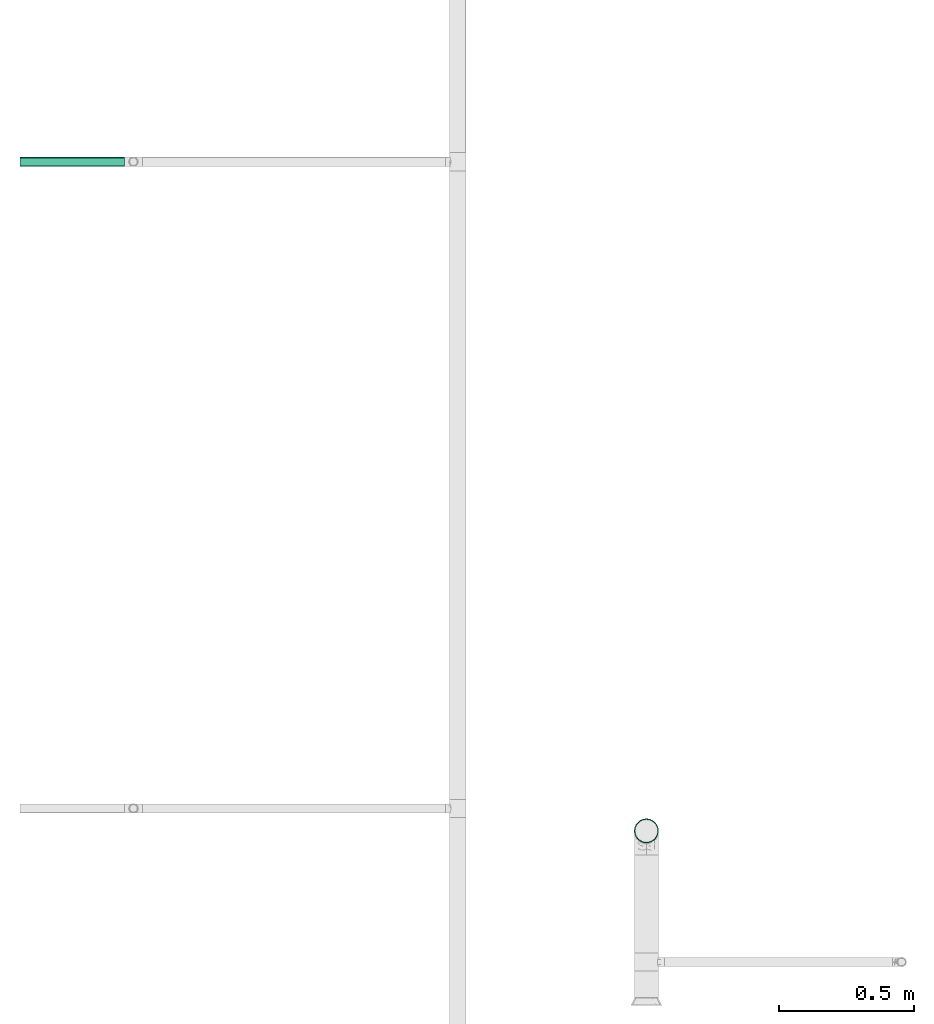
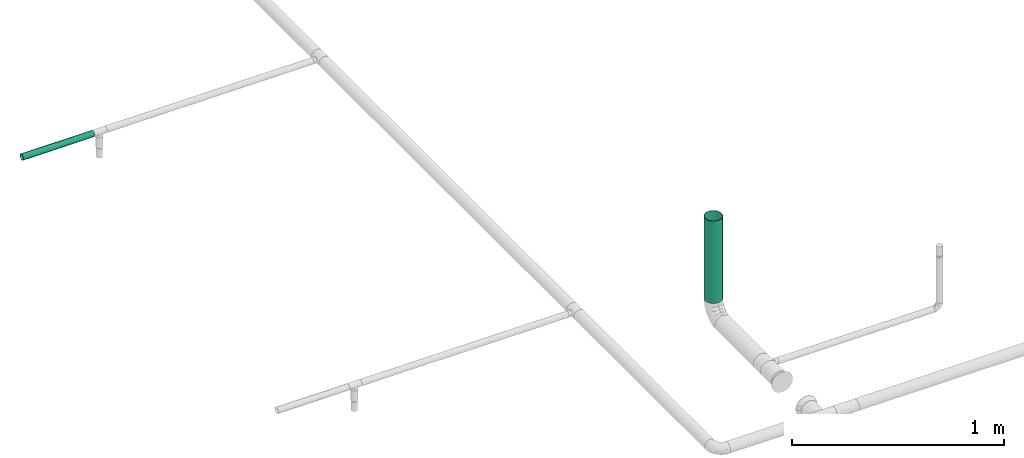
# One storey, part 42 of 45: 2 flow segments.
"""IFC2X3 building model written with IfcOpenShell, lengths in millimetres."""

from ifc_helpers import new_model, entity, si_unit, converted_unit, derived_unit, direction, frame, place, context, subcontext, project, spatial, faceted_brep, type_object, element, save


model = new_model("IFC2X3")

# Units and contexts
model_context = context("Model", 3, precision=0.01, world=frame((0.0, 4.29681676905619e-09, 0.0)), true_north=direction((4.01073788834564e-13, 1.0)))
plan_context = context("Plan", 3, precision=0.01, world=frame((0.0, 4.29681676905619e-09, 0.0)), true_north=direction((4.01073788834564e-13, 1.0)))
body_context = subcontext(model_context, "Body", "Model", "MODEL_VIEW")
ifc_project = project(units=[converted_unit("PLANEANGLEUNIT", "DEGREE", entity("IfcPositiveLengthMeasure", 0.0174532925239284), si_unit("PLANEANGLEUNIT", "RADIAN"), dimensions=[0, 0, 0, 0, 0, 0, 0]), si_unit("AREAUNIT", "SQUARE_METRE"), si_unit("LENGTHUNIT", "METRE", prefix="MILLI"), si_unit("MASSUNIT", "GRAM", prefix="KILO"), si_unit("POWERUNIT", "WATT"), si_unit("PRESSUREUNIT", "PASCAL", prefix="KILO"), si_unit("FORCEUNIT", "NEWTON", prefix="KILO"), si_unit("ELECTRICVOLTAGEUNIT", "VOLT"), si_unit("ELECTRICCURRENTUNIT", "AMPERE"), si_unit("THERMODYNAMICTEMPERATUREUNIT", "DEGREE_CELSIUS"), si_unit("TIMEUNIT", "SECOND"), si_unit("VOLUMEUNIT", "CUBIC_METRE"), derived_unit("LINEARVELOCITYUNIT", [(si_unit("LENGTHUNIT", "METRE"), 1), (si_unit("TIMEUNIT", "SECOND"), -1)]), derived_unit("VOLUMETRICFLOWRATEUNIT", [(si_unit("VOLUMEUNIT", "CUBIC_METRE"), 1), (si_unit("TIMEUNIT", "SECOND"), -1)]), derived_unit("THERMALTRANSMITTANCEUNIT", [(si_unit("POWERUNIT", "WATT"), 1), (si_unit("THERMODYNAMICTEMPERATUREUNIT", "KELVIN"), -1), (si_unit("AREAUNIT", "SQUARE_METRE"), -1)]), derived_unit("SOUNDPRESSUREUNIT", [(si_unit("PRESSUREUNIT", "PASCAL"), 1)])], contexts=[model_context, plan_context])

# Site, building, storey
site_placement = place(None, frame((0.0, -4.29681676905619e-09, 0.0), z_axis=(0.0, 0.0, 1.0), x_axis=(1.0, 0.0, 0.0)))
site = spatial("IfcSite", under=ifc_project, at=site_placement, CompositionType="ELEMENT")
building_placement = place(site_placement, frame((0.0, 4.29681676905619e-09, 0.0), z_axis=(0.0, 0.0, 1.0), x_axis=(1.0, 0.0, 0.0)))
building = spatial("IfcBuilding", under=site, at=building_placement, Name="mc-building", CompositionType="ELEMENT")
storey_placement = place(building_placement, frame((0.0, 0.0, 210200.0), z_axis=(0.0, 0.0, 1.0), x_axis=(1.0, 0.0, 0.0)))
storey = spatial("IfcBuildingStorey", under=building, at=storey_placement, Name="Nivå F - 0,7 m", CompositionType="ELEMENT", Elevation=210200.0)

# Flow segments
pipe_segment_type = type_object("IfcPipeSegmentType", Name="Stålrør normaltykke", PredefinedType="RIGIDSEGMENT")
flow_segment_1_placement = place(storey_placement, frame((324119.17326, 463640.00018, 3027.0), z_axis=(1.0, 0.0, 0.0), x_axis=(0.0, 0.0, 1.0)))
element("IfcFlowSegment", 1, at=flow_segment_1_placement, inside=storey, type_object=pipe_segment_type, Name="Stålrør normaltykke", context=body_context, shape_type="Brep", body=[
    faceted_brep([(473.0, 42.5, 0.0), (473.0, 41.8543295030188, -7.38004755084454), (0.0, 41.8543295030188, -7.38004755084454), (0.0, 42.5, 0.0), (473.0, 39.9369363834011, -14.535856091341), (0.0, 39.9369363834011, -14.535856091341), (473.0, 36.8060796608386, -21.25), (0.0, 36.8060796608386, -21.25), (473.0, 32.5568888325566, -27.3184734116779), (0.0, 32.5568888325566, -27.3184734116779), (473.0, 27.3184734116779, -32.5568888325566), (0.0, 27.3184734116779, -32.5568888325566), (473.0, 21.25, -36.8060796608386), (0.0, 21.25, -36.8060796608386), (473.0, 14.5358560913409, -39.9369363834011), (0.0, 14.5358560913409, -39.9369363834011), (473.0, 7.38004755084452, -41.8543295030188), (0.0, 7.38004755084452, -41.8543295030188), (473.0, -7.80712334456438e-15, -42.5), (0.0, -7.80712334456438e-15, -42.5), (473.0, -7.38004755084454, -41.8543295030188), (0.0, -7.38004755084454, -41.8543295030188), (473.0, -14.5358560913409, -39.9369363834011), (0.0, -14.5358560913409, -39.9369363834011), (473.0, -21.25, -36.8060796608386), (0.0, -21.25, -36.8060796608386), (473.0, -27.3184734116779, -32.5568888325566), (0.0, -27.3184734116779, -32.5568888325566), (473.0, -32.5568888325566, -27.3184734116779), (0.0, -32.5568888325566, -27.3184734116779), (473.0, -36.8060796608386, -21.25), (0.0, -36.8060796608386, -21.25), (473.0, -39.9369363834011, -14.5358560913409), (0.0, -39.9369363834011, -14.5358560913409), (473.0, -41.8543295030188, -7.38004755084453), (0.0, -41.8543295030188, -7.38004755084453), (473.0, -42.5, 5.20474889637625e-15), (0.0, -42.5, 5.20474889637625e-15), (473.0, -41.8543295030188, 7.38004755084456), (0.0, -41.8543295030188, 7.38004755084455), (473.0, -39.9369363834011, 14.5358560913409), (0.0, -39.9369363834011, 14.5358560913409), (473.0, -36.8060796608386, 21.25), (0.0, -36.8060796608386, 21.25), (473.0, -32.5568888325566, 27.3184734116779), (0.0, -32.5568888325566, 27.3184734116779), (473.0, -27.3184734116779, 32.5568888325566), (0.0, -27.3184734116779, 32.5568888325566), (473.0, -21.25, 36.8060796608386), (0.0, -21.25, 36.8060796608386), (473.0, -14.5358560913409, 39.9369363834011), (0.0, -14.5358560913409, 39.9369363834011), (473.0, -7.38004755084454, 41.8543295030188), (0.0, -7.38004755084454, 41.8543295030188), (473.0, 2.60237444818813e-15, 42.5), (0.0, 2.60237444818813e-15, 42.5), (473.0, 7.38004755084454, 41.8543295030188), (0.0, 7.38004755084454, 41.8543295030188), (473.0, 14.5358560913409, 39.9369363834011), (0.0, 14.5358560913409, 39.9369363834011), (473.0, 21.25, 36.8060796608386), (0.0, 21.25, 36.8060796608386), (473.0, 27.3184734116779, 32.5568888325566), (0.0, 27.3184734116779, 32.5568888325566), (473.0, 32.5568888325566, 27.3184734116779), (0.0, 32.5568888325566, 27.3184734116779), (473.0, 36.8060796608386, 21.25), (0.0, 36.8060796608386, 21.25), (473.0, 39.9369363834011, 14.5358560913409), (0.0, 39.9369363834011, 14.5358560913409), (473.0, 41.8543295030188, 7.38004755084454), (0.0, 41.8543295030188, 7.38004755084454), (473.0, 43.8239450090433, -7.7273439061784), (473.0, 44.5, 0.0), (0.0, 44.5, 0.0), (0.0, 43.8239450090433, -7.7273439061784), (473.0, 43.8239450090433, 7.7273439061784), (0.0, 43.8239450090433, 7.7273439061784), (473.0, 41.8163216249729, 15.2198963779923), (0.0, 41.8163216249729, 15.2198963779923), (473.0, 38.5381304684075, 22.25), (0.0, 38.5381304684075, 22.25), (473.0, 34.0889777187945, 28.604048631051), (0.0, 34.0889777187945, 28.604048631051), (473.0, 28.604048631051, 34.0889777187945), (0.0, 28.604048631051, 34.0889777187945), (473.0, 22.25, 38.5381304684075), (0.0, 22.25, 38.5381304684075), (473.0, 15.2198963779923, 41.8163216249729), (0.0, 15.2198963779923, 41.8163216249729), (473.0, 7.7273439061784, 43.8239450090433), (0.0, 7.7273439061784, 43.8239450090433), (473.0, 2.72483912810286e-15, 44.5), (0.0, 2.72483912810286e-15, 44.5), (473.0, -7.7273439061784, 43.8239450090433), (0.0, -7.7273439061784, 43.8239450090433), (473.0, -15.2198963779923, 41.8163216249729), (0.0, -15.2198963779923, 41.8163216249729), (473.0, -22.25, 38.5381304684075), (0.0, -22.25, 38.5381304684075), (473.0, -28.604048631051, 34.0889777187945), (0.0, -28.604048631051, 34.0889777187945), (473.0, -34.0889777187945, 28.604048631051), (0.0, -34.0889777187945, 28.604048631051), (473.0, -38.5381304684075, 22.25), (0.0, -38.5381304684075, 22.25), (473.0, -41.8163216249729, 15.2198963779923), (0.0, -41.8163216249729, 15.2198963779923), (473.0, -43.8239450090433, 7.72734390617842), (0.0, -43.8239450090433, 7.72734390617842), (473.0, -44.5, 5.44967825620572e-15), (0.0, -44.5, 5.44967825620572e-15), (473.0, -43.8239450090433, -7.72734390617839), (0.0, -43.8239450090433, -7.72734390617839), (473.0, -41.8163216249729, -15.2198963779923), (0.0, -41.8163216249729, -15.2198963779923), (473.0, -38.5381304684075, -22.25), (0.0, -38.5381304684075, -22.25), (473.0, -34.0889777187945, -28.604048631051), (0.0, -34.0889777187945, -28.604048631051), (473.0, -28.604048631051, -34.0889777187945), (0.0, -28.604048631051, -34.0889777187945), (473.0, -22.25, -38.5381304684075), (0.0, -22.25, -38.5381304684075), (473.0, -15.2198963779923, -41.8163216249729), (0.0, -15.2198963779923, -41.8163216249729), (473.0, -7.7273439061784, -43.8239450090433), (0.0, -7.7273439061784, -43.8239450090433), (473.0, -8.17451738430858e-15, -44.5), (0.0, -8.17451738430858e-15, -44.5), (473.0, 7.72734390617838, -43.8239450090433), (0.0, 7.72734390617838, -43.8239450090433), (473.0, 15.2198963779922, -41.8163216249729), (0.0, 15.2198963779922, -41.8163216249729), (473.0, 22.25, -38.5381304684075), (0.0, 22.25, -38.5381304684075), (473.0, 28.604048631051, -34.0889777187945), (0.0, 28.604048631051, -34.0889777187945), (473.0, 34.0889777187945, -28.604048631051), (0.0, 34.0889777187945, -28.604048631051), (473.0, 38.5381304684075, -22.25), (0.0, 38.5381304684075, -22.25), (473.0, 41.8163216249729, -15.2198963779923), (0.0, 41.8163216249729, -15.2198963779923)], [[[0, 1, 2, 3]], [[1, 4, 5, 2]], [[4, 6, 7, 5]], [[6, 8, 9, 7]], [[8, 10, 11, 9]], [[10, 12, 13, 11]], [[12, 14, 15, 13]], [[14, 16, 17, 15]], [[16, 18, 19, 17]], [[18, 20, 21, 19]], [[20, 22, 23, 21]], [[22, 24, 25, 23]], [[24, 26, 27, 25]], [[26, 28, 29, 27]], [[28, 30, 31, 29]], [[30, 32, 33, 31]], [[32, 34, 35, 33]], [[34, 36, 37, 35]], [[36, 38, 39, 37]], [[38, 40, 41, 39]], [[40, 42, 43, 41]], [[42, 44, 45, 43]], [[44, 46, 47, 45]], [[46, 48, 49, 47]], [[48, 50, 51, 49]], [[50, 52, 53, 51]], [[52, 54, 55, 53]], [[54, 56, 57, 55]], [[56, 58, 59, 57]], [[58, 60, 61, 59]], [[60, 62, 63, 61]], [[62, 64, 65, 63]], [[64, 66, 67, 65]], [[66, 68, 69, 67]], [[68, 70, 71, 69]], [[70, 0, 3, 71]], [[72, 73, 74, 75]], [[73, 76, 77, 74]], [[76, 78, 79, 77]], [[78, 80, 81, 79]], [[80, 82, 83, 81]], [[82, 84, 85, 83]], [[84, 86, 87, 85]], [[86, 88, 89, 87]], [[88, 90, 91, 89]], [[90, 92, 93, 91]], [[92, 94, 95, 93]], [[94, 96, 97, 95]], [[96, 98, 99, 97]], [[98, 100, 101, 99]], [[100, 102, 103, 101]], [[102, 104, 105, 103]], [[104, 106, 107, 105]], [[106, 108, 109, 107]], [[108, 110, 111, 109]], [[110, 112, 113, 111]], [[112, 114, 115, 113]], [[114, 116, 117, 115]], [[116, 118, 119, 117]], [[118, 120, 121, 119]], [[120, 122, 123, 121]], [[122, 124, 125, 123]], [[124, 126, 127, 125]], [[126, 128, 129, 127]], [[128, 130, 131, 129]], [[130, 132, 133, 131]], [[132, 134, 135, 133]], [[134, 136, 137, 135]], [[136, 138, 139, 137]], [[138, 140, 141, 139]], [[140, 142, 143, 141]], [[142, 72, 75, 143]], [[75, 74, 77, 79, 81, 83, 85, 87, 89, 91, 93, 95, 97, 99, 101, 103, 105, 107, 109, 111, 113, 115, 117, 119, 121, 123, 125, 127, 129, 131, 133, 135, 137, 139, 141, 143], [3, 2, 5, 7, 9, 11, 13, 15, 17, 19, 21, 23, 25, 27, 29, 31, 33, 35, 37, 39, 41, 43, 45, 47, 49, 51, 53, 55, 57, 59, 61, 63, 65, 67, 69, 71]], [[142, 140, 138, 136, 134, 132, 130, 128, 126, 124, 122, 120, 118, 116, 114, 112, 110, 108, 106, 104, 102, 100, 98, 96, 94, 92, 90, 88, 86, 84, 82, 80, 78, 76, 73, 72], [70, 68, 66, 64, 62, 60, 58, 56, 54, 52, 50, 48, 46, 44, 42, 40, 38, 36, 34, 32, 30, 28, 26, 24, 22, 20, 18, 16, 14, 12, 10, 8, 6, 4, 1, 0]]], orient=[[False], [False], [False], [False], [False], [False], [False], [False], [False], [False], [False], [False], [False], [False], [False], [False], [False], [False], [False], [False], [False], [False], [False], [False], [False], [False], [False], [False], [False], [False], [False], [False], [False], [False], [False], [False], [False], [False], [False], [False], [False], [False], [False], [False], [False], [False], [False], [False], [False], [False], [False], [False], [False], [False], [False], [False], [False], [False], [False], [False], [False], [False], [False], [False], [False], [False], [False], [False], [False], [False], [False], [False], [False, False], [False, False]]),
])
flow_segment_2_placement = place(storey_placement, frame((322182.07674, 466123.25463, 3145.0), z_axis=(0.0, 0.0, 1.0), x_axis=(-1.0, 0.0, 0.0)))
element("IfcFlowSegment", 2, at=flow_segment_2_placement, inside=storey, type_object=pipe_segment_type, Name="Stålrør normaltykke", context=body_context, shape_type="Brep", body=[
    faceted_brep([(387.326739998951, 14.9, 0.0), (387.326739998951, 14.6736355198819, -2.58735784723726), (0.0, 14.6736355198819, -2.58735784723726), (0.0, 14.9, 0.0), (387.326739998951, 14.00142004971, -5.09610013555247), (0.0, 14.00142004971, -5.09610013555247), (387.326739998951, 12.9037785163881, -7.45000000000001), (0.0, 12.9037785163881, -7.45000000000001), (387.326739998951, 11.4140622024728, -9.57753538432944), (0.0, 11.4140622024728, -9.57753538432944), (387.326739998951, 9.57753538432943, -11.4140622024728), (0.0, 9.57753538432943, -11.4140622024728), (387.326739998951, 7.45, -12.9037785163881), (0.0, 7.45, -12.9037785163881), (387.326739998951, 5.09610013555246, -14.00142004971), (0.0, 5.09610013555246, -14.00142004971), (387.326739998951, 2.58735784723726, -14.6736355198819), (0.0, 2.58735784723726, -14.6736355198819), (387.326739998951, -2.73708559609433e-15, -14.9), (0.0, -2.73708559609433e-15, -14.9), (387.326739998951, -2.58735784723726, -14.6736355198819), (0.0, -2.58735784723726, -14.6736355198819), (387.326739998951, -5.09610013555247, -14.00142004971), (0.0, -5.09610013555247, -14.00142004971), (387.326739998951, -7.45000000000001, -12.9037785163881), (0.0, -7.45000000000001, -12.9037785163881), (387.326739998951, -9.57753538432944, -11.4140622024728), (0.0, -9.57753538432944, -11.4140622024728), (387.326739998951, -11.4140622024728, -9.57753538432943), (0.0, -11.4140622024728, -9.57753538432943), (387.326739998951, -12.9037785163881, -7.44999999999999), (0.0, -12.9037785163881, -7.44999999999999), (387.326739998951, -14.00142004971, -5.09610013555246), (0.0, -14.00142004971, -5.09610013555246), (387.326739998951, -14.6736355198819, -2.58735784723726), (0.0, -14.6736355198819, -2.58735784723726), (387.326739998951, -14.9, 1.82472373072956e-15), (0.0, -14.9, 1.82472373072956e-15), (387.326739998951, -14.6736355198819, 2.58735784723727), (0.0, -14.6736355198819, 2.58735784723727), (387.326739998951, -14.00142004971, 5.09610013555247), (0.0, -14.00142004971, 5.09610013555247), (387.326739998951, -12.9037785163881, 7.45), (0.0, -12.9037785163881, 7.45), (387.326739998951, -11.4140622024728, 9.57753538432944), (0.0, -11.4140622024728, 9.57753538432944), (387.326739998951, -9.57753538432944, 11.4140622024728), (0.0, -9.57753538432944, 11.4140622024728), (387.326739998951, -7.45, 12.9037785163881), (0.0, -7.45, 12.9037785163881), (387.326739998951, -5.09610013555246, 14.00142004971), (0.0, -5.09610013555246, 14.00142004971), (387.326739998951, -2.58735784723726, 14.6736355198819), (0.0, -2.58735784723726, 14.6736355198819), (387.326739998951, 9.12361865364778e-16, 14.9), (0.0, 9.12361865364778e-16, 14.9), (387.326739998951, 2.58735784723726, 14.6736355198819), (0.0, 2.58735784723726, 14.6736355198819), (387.326739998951, 5.09610013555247, 14.00142004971), (0.0, 5.09610013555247, 14.00142004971), (387.326739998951, 7.45, 12.9037785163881), (0.0, 7.45, 12.9037785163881), (387.326739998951, 9.57753538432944, 11.4140622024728), (0.0, 9.57753538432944, 11.4140622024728), (387.326739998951, 11.4140622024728, 9.57753538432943), (0.0, 11.4140622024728, 9.57753538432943), (387.326739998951, 12.9037785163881, 7.45), (0.0, 12.9037785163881, 7.45), (387.326739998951, 14.00142004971, 5.09610013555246), (0.0, 14.00142004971, 5.09610013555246), (387.326739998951, 14.6736355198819, 2.58735784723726), (0.0, 14.6736355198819, 2.58735784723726), (387.326739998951, 16.6432510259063, -2.93465420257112), (387.326739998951, 16.9, 0.0), (0.0, 16.9, 0.0), (0.0, 16.6432510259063, -2.93465420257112), (387.326739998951, 16.6432510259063, 2.93465420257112), (0.0, 16.6432510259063, 2.93465420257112), (387.326739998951, 15.8808052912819, 5.7801404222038), (0.0, 15.8808052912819, 5.7801404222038), (387.326739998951, 14.635829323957, 8.45), (0.0, 14.635829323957, 8.45), (387.326739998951, 12.9461510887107, 10.8631106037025), (0.0, 12.9461510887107, 10.8631106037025), (387.326739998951, 10.8631106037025, 12.9461510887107), (0.0, 10.8631106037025, 12.9461510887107), (387.326739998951, 8.45, 14.635829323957), (0.0, 8.45, 14.635829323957), (387.326739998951, 5.7801404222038, 15.8808052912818), (0.0, 5.7801404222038, 15.8808052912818), (387.326739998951, 2.93465420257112, 16.6432510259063), (0.0, 2.93465420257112, 16.6432510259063), (387.326739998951, 1.03482654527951e-15, 16.9), (0.0, 1.03482654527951e-15, 16.9), (387.326739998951, -2.93465420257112, 16.6432510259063), (0.0, -2.93465420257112, 16.6432510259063), (387.326739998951, -5.7801404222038, 15.8808052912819), (0.0, -5.7801404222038, 15.8808052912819), (387.326739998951, -8.45, 14.635829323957), (0.0, -8.45, 14.635829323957), (387.326739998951, -10.8631106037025, 12.9461510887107), (0.0, -10.8631106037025, 12.9461510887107), (387.326739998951, -12.9461510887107, 10.8631106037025), (0.0, -12.9461510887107, 10.8631106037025), (387.326739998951, -14.635829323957, 8.45), (0.0, -14.635829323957, 8.45), (387.326739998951, -15.8808052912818, 5.7801404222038), (0.0, -15.8808052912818, 5.7801404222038), (387.326739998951, -16.6432510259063, 2.93465420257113), (0.0, -16.6432510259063, 2.93465420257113), (387.326739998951, -16.9, 2.06965309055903e-15), (0.0, -16.9, 2.06965309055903e-15), (387.326739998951, -16.6432510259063, -2.93465420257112), (0.0, -16.6432510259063, -2.93465420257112), (387.326739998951, -15.8808052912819, -5.7801404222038), (0.0, -15.8808052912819, -5.7801404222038), (387.326739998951, -14.635829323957, -8.44999999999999), (0.0, -14.635829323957, -8.44999999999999), (387.326739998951, -12.9461510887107, -10.8631106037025), (0.0, -12.9461510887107, -10.8631106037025), (387.326739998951, -10.8631106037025, -12.9461510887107), (0.0, -10.8631106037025, -12.9461510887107), (387.326739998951, -8.45000000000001, -14.635829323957), (0.0, -8.45000000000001, -14.635829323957), (387.326739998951, -5.78014042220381, -15.8808052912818), (0.0, -5.78014042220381, -15.8808052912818), (387.326739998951, -2.93465420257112, -16.6432510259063), (0.0, -2.93465420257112, -16.6432510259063), (387.326739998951, -3.10447963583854e-15, -16.9), (0.0, -3.10447963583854e-15, -16.9), (387.326739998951, 2.93465420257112, -16.6432510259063), (0.0, 2.93465420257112, -16.6432510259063), (387.326739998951, 5.78014042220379, -15.8808052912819), (0.0, 5.78014042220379, -15.8808052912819), (387.326739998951, 8.45, -14.635829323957), (0.0, 8.45, -14.635829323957), (387.326739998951, 10.8631106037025, -12.9461510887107), (0.0, 10.8631106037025, -12.9461510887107), (387.326739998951, 12.9461510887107, -10.8631106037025), (0.0, 12.9461510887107, -10.8631106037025), (387.326739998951, 14.635829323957, -8.45000000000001), (0.0, 14.635829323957, -8.45000000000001), (387.326739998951, 15.8808052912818, -5.78014042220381), (0.0, 15.8808052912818, -5.78014042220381)], [[[0, 1, 2, 3]], [[1, 4, 5, 2]], [[4, 6, 7, 5]], [[6, 8, 9, 7]], [[8, 10, 11, 9]], [[10, 12, 13, 11]], [[12, 14, 15, 13]], [[14, 16, 17, 15]], [[16, 18, 19, 17]], [[18, 20, 21, 19]], [[20, 22, 23, 21]], [[22, 24, 25, 23]], [[24, 26, 27, 25]], [[26, 28, 29, 27]], [[28, 30, 31, 29]], [[30, 32, 33, 31]], [[32, 34, 35, 33]], [[34, 36, 37, 35]], [[36, 38, 39, 37]], [[38, 40, 41, 39]], [[40, 42, 43, 41]], [[42, 44, 45, 43]], [[44, 46, 47, 45]], [[46, 48, 49, 47]], [[48, 50, 51, 49]], [[50, 52, 53, 51]], [[52, 54, 55, 53]], [[54, 56, 57, 55]], [[56, 58, 59, 57]], [[58, 60, 61, 59]], [[60, 62, 63, 61]], [[62, 64, 65, 63]], [[64, 66, 67, 65]], [[66, 68, 69, 67]], [[68, 70, 71, 69]], [[70, 0, 3, 71]], [[72, 73, 74, 75]], [[73, 76, 77, 74]], [[76, 78, 79, 77]], [[78, 80, 81, 79]], [[80, 82, 83, 81]], [[82, 84, 85, 83]], [[84, 86, 87, 85]], [[86, 88, 89, 87]], [[88, 90, 91, 89]], [[90, 92, 93, 91]], [[92, 94, 95, 93]], [[94, 96, 97, 95]], [[96, 98, 99, 97]], [[98, 100, 101, 99]], [[100, 102, 103, 101]], [[102, 104, 105, 103]], [[104, 106, 107, 105]], [[106, 108, 109, 107]], [[108, 110, 111, 109]], [[110, 112, 113, 111]], [[112, 114, 115, 113]], [[114, 116, 117, 115]], [[116, 118, 119, 117]], [[118, 120, 121, 119]], [[120, 122, 123, 121]], [[122, 124, 125, 123]], [[124, 126, 127, 125]], [[126, 128, 129, 127]], [[128, 130, 131, 129]], [[130, 132, 133, 131]], [[132, 134, 135, 133]], [[134, 136, 137, 135]], [[136, 138, 139, 137]], [[138, 140, 141, 139]], [[140, 142, 143, 141]], [[142, 72, 75, 143]], [[75, 74, 77, 79, 81, 83, 85, 87, 89, 91, 93, 95, 97, 99, 101, 103, 105, 107, 109, 111, 113, 115, 117, 119, 121, 123, 125, 127, 129, 131, 133, 135, 137, 139, 141, 143], [3, 2, 5, 7, 9, 11, 13, 15, 17, 19, 21, 23, 25, 27, 29, 31, 33, 35, 37, 39, 41, 43, 45, 47, 49, 51, 53, 55, 57, 59, 61, 63, 65, 67, 69, 71]], [[142, 140, 138, 136, 134, 132, 130, 128, 126, 124, 122, 120, 118, 116, 114, 112, 110, 108, 106, 104, 102, 100, 98, 96, 94, 92, 90, 88, 86, 84, 82, 80, 78, 76, 73, 72], [70, 68, 66, 64, 62, 60, 58, 56, 54, 52, 50, 48, 46, 44, 42, 40, 38, 36, 34, 32, 30, 28, 26, 24, 22, 20, 18, 16, 14, 12, 10, 8, 6, 4, 1, 0]]], orient=[[False], [False], [False], [False], [False], [False], [False], [False], [False], [False], [False], [False], [False], [False], [False], [False], [False], [False], [False], [False], [False], [False], [False], [False], [False], [False], [False], [False], [False], [False], [False], [False], [False], [False], [False], [False], [False], [False], [False], [False], [False], [False], [False], [False], [False], [False], [False], [False], [False], [False], [False], [False], [False], [False], [False], [False], [False], [False], [False], [False], [False], [False], [False], [False], [False], [False], [False], [False], [False], [False], [False], [False], [False, False], [False, False]]),
])

save(model, "model.ifc")
